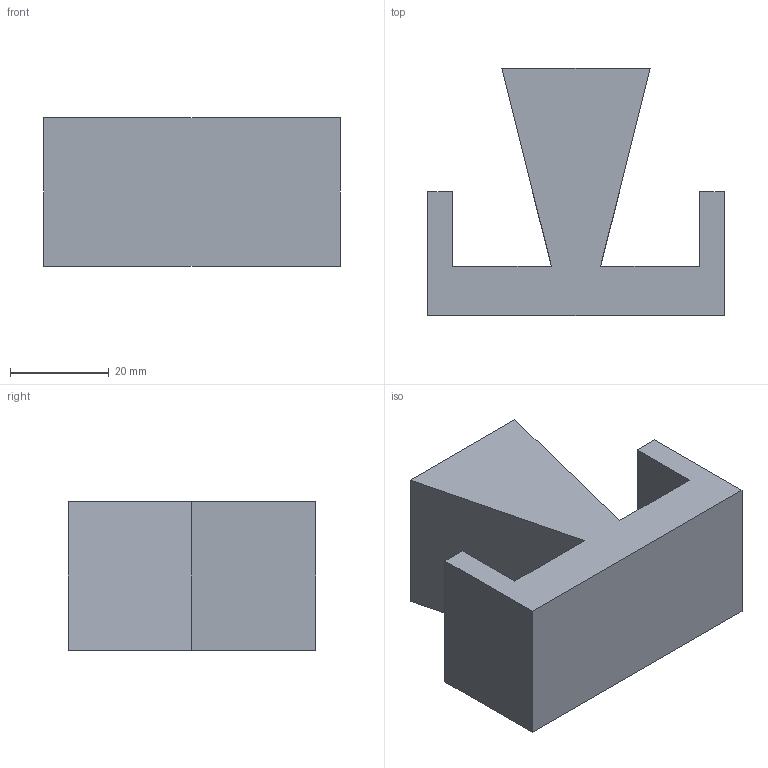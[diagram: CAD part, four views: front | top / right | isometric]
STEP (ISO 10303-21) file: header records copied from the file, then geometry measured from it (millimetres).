
FILE_DESCRIPTION(/* description */ (''),/* implementation_level */ '2;1');
FILE_NAME(/* name */ 'E:\OneDrive\Desktop\N5_GC_Orthographic\3D CAD Models\Task_3.stp',/* time_stamp */ '2020-06-09T12:48:41+01:00',/* author */ ('hunte'),/* organization */ (''),/* preprocessor_version */ 'ST-DEVELOPER v18.1',/* originating_system */ 'Autodesk Inventor 2020',/* authorisation */ '');
FILE_SCHEMA (('AUTOMOTIVE_DESIGN { 1 0 10303 214 3 1 1 }'));
Length unit declared in the file: millimetre
Products named in the file (1): Task_3
Bounding box: 60 x 50 x 30 mm (x, y, z)
Volume: 46500 mm3; surface area: 12173.9 mm2
Topology: 1 solids, 1 shells, 14 faces, 36 edges, 24 vertices
Faces by surface type: plane 14
Entity records: 461 total; most frequent: CARTESIAN_POINT 75, ORIENTED_EDGE 72, DIRECTION 66, LINE 36, VECTOR 36, EDGE_CURVE 36, VERTEX_POINT 24, AXIS2_PLACEMENT_3D 15
